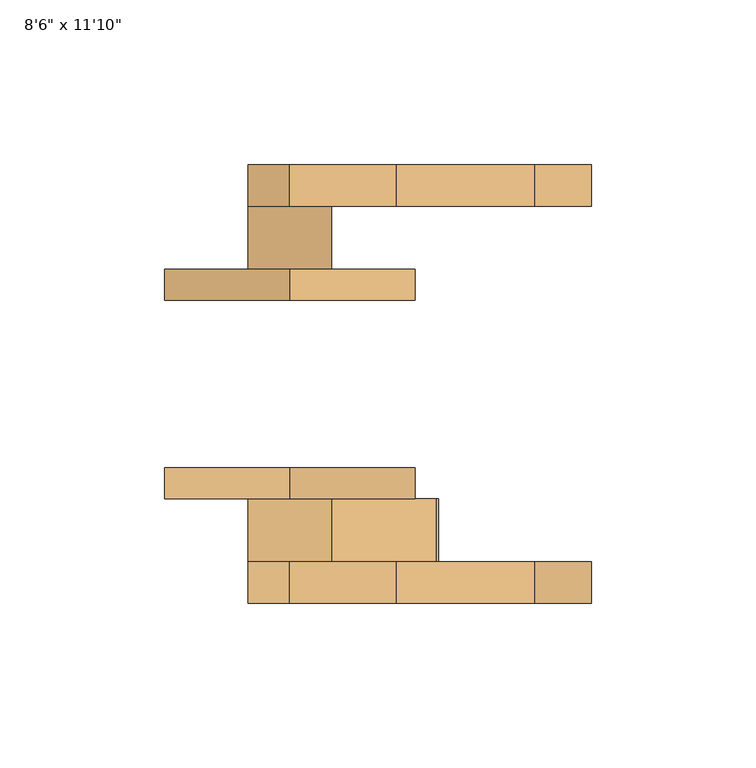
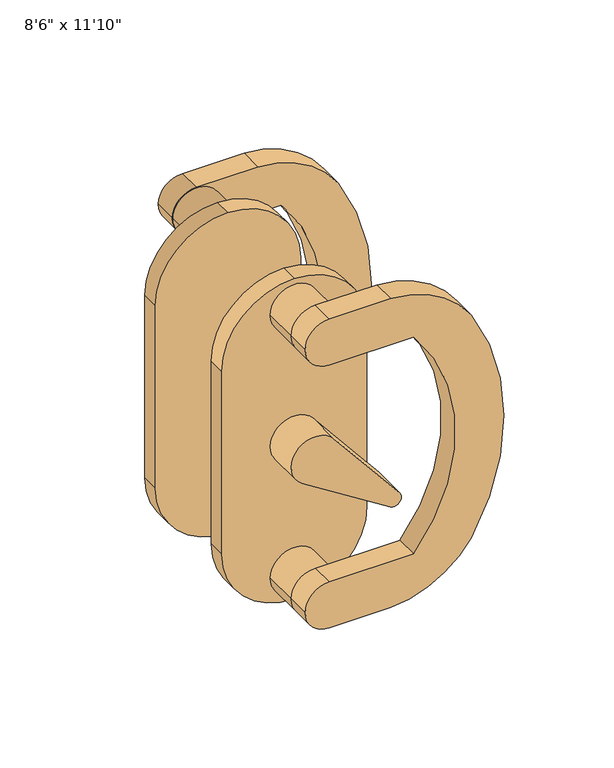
"""IFC4 building model written with IfcOpenShell, lengths in millimetres: door geometry."""

from ifc_helpers import new_model, si_unit, point, frame, frame_2d, origin, place, context, project, spatial, polyline, circle_curve, trimmed, segment, composite_curve, outline, extrude, source, transform, mapped, element, save
from ifc_brep_helpers import plane_surface, cylinder_surface, revolved_surface, advanced_brep


def door_82c8d47d(model_context):
    return source(origin(), model_context, "Body", "SolidModel", [
        extrude(outline(composite_curve([segment(trimmed(circle_curve(frame_2d((1089.025, -2781.3)), 12.7), [point((1101.725, -2781.3))], [point((1089.025, -2794.0))], False, "CARTESIAN"), True, "CONTINUOUS"), segment(trimmed(circle_curve(frame_2d((1089.025, -2781.3)), 12.7), [point((1089.025, -2794.0))], [point((1076.325, -2781.3))], False, "CARTESIAN"), True, "CONTINUOUS"), segment(polyline([(1076.325, -2781.3), (1076.325, -2736.85)]), True, "CONTINUOUS"), segment(trimmed(circle_curve(frame_2d((1016.0, -2809.0856209)), 94.1121169), [point((1076.325, -2736.85))], [point((955.675, -2736.85))], True, "CARTESIAN"), True, "CONTINUOUS"), segment(polyline([(955.675, -2736.85), (955.675, -2781.3)]), True, "CONTINUOUS"), segment(trimmed(circle_curve(frame_2d((942.975, -2781.3)), 12.7), [point((955.675, -2781.3))], [point((942.975, -2794.0))], False, "CARTESIAN"), True, "CONTINUOUS"), segment(trimmed(circle_curve(frame_2d((942.975, -2781.3)), 12.7), [point((942.975, -2794.0))], [point((930.275, -2781.3))], False, "CARTESIAN"), True, "CONTINUOUS"), segment(polyline([(930.275, -2781.3), (930.275, -2749.0483238)]), True, "CONTINUOUS"), segment(trimmed(circle_curve(frame_2d((983.5492088, -2751.3023503)), 53.3218713), [point((930.275, -2749.0483238))], [point((954.0589602, -2706.8777265))], False, "CARTESIAN"), True, "CONTINUOUS"), segment(trimmed(circle_curve(frame_2d((1016.0, -2809.0856209)), 119.5121169), [point((954.0589602, -2706.8777265))], [point((1077.9410398, -2706.8777265))], False, "CARTESIAN"), True, "CONTINUOUS"), segment(trimmed(circle_curve(frame_2d((1048.4507912, -2751.3023503)), 53.3218713), [point((1077.9410398, -2706.8777265))], [point((1101.725, -2749.0483238))], False, "CARTESIAN"), True, "CONTINUOUS"), segment(polyline([(1101.725, -2749.0483238), (1101.725, -2781.3)]), True, "CONTINUOUS")], self_intersect=False)), frame((0.0, 28.575, 0.0), z_axis=(0.0, 1.0, 0.0), x_axis=(0.0, 0.0, 1.0)), (0.0, 0.0, 1.0), 12.7),
        extrude(outline(composite_curve([segment(trimmed(circle_curve(frame_2d((942.975, -2781.3)), 12.7), [point((942.975, -2768.6))], [point((942.975, -2794.0))], False, "CARTESIAN"), True, "CONTINUOUS"), segment(trimmed(circle_curve(frame_2d((942.975, -2781.3)), 12.7), [point((942.975, -2794.0))], [point((942.975, -2768.6))], False, "CARTESIAN"), True, "CONTINUOUS")], self_intersect=False)), frame((0.0, 9.525, 0.0), z_axis=(0.0, 1.0, 0.0), x_axis=(0.0, 0.0, 1.0)), (0.0, 0.0, 1.0), 19.05),
        extrude(outline(composite_curve([segment(trimmed(circle_curve(frame_2d((1089.025, -2781.3)), 12.7), [point((1089.025, -2768.6))], [point((1089.025, -2794.0))], False, "CARTESIAN"), True, "CONTINUOUS"), segment(trimmed(circle_curve(frame_2d((1089.025, -2781.3)), 12.7), [point((1089.025, -2794.0))], [point((1089.025, -2768.6))], False, "CARTESIAN"), True, "CONTINUOUS")], self_intersect=False)), frame((0.0, 9.525, 0.0), z_axis=(0.0, 1.0, 0.0), x_axis=(0.0, 0.0, 1.0)), (0.0, 0.0, 1.0), 19.05),
        extrude(outline(composite_curve([segment(polyline([(1066.8, -2819.4), (965.2, -2819.4)]), True, "CONTINUOUS"), segment(trimmed(circle_curve(frame_2d((965.2, -2781.3)), 38.1), [point((965.2, -2819.4))], [point((927.1, -2781.3))], False, "CARTESIAN"), True, "CONTINUOUS"), segment(trimmed(circle_curve(frame_2d((965.2, -2781.3)), 38.1), [point((927.1, -2781.3))], [point((965.2, -2743.2))], False, "CARTESIAN"), True, "CONTINUOUS"), segment(polyline([(965.2, -2743.2), (1066.8, -2743.2)]), True, "CONTINUOUS"), segment(trimmed(circle_curve(frame_2d((1066.8, -2781.3)), 38.1), [point((1066.8, -2743.2))], [point((1104.9, -2781.3))], False, "CARTESIAN"), True, "CONTINUOUS"), segment(trimmed(circle_curve(frame_2d((1066.8, -2781.3)), 38.1), [point((1104.9, -2781.3))], [point((1066.8, -2819.4))], False, "CARTESIAN"), True, "CONTINUOUS")], self_intersect=False)), frame((0.0, 0.0, 0.0), z_axis=(0.0, 1.0, 0.0), x_axis=(0.0, 0.0, 1.0)), (0.0, 0.0, 1.0), 9.525),
        advanced_brep(
        [(-2781.3, -92.075, 1101.725), (-2794.0, -92.075, 1089.025), (-2781.3, -92.075, 1076.325), (-2736.85, -92.075, 1076.325), (-2736.85, -92.075, 955.675), (-2781.3, -92.075, 955.675), (-2794.0, -92.075, 942.975), (-2781.3, -92.075, 930.275), (-2749.0483238, -92.075, 930.275), (-2706.8777265, -92.075, 954.0589602), (-2706.8777265, -92.075, 1077.9410398), (-2749.0483238, -92.075, 1101.725), (-2781.3, -79.375, 1076.325), (-2768.6, -79.375, 1089.025), (-2781.3, -79.375, 1101.725), (-2749.0483238, -79.375, 1101.725), (-2706.8777265, -79.375, 1077.9410398), (-2706.8777265, -79.375, 954.0589602), (-2749.0483238, -79.375, 930.275), (-2781.3, -79.375, 930.275), (-2768.6, -79.375, 942.975), (-2781.3, -79.375, 955.675), (-2736.85, -79.375, 955.675), (-2736.85, -79.375, 1076.325), (-2794.0, -79.375, 942.975), (-2794.0, -79.375, 1089.025), (-2768.6, -60.325, 942.975), (-2794.0, -60.325, 942.975), (-2768.6, -60.325, 1089.025), (-2794.0, -60.325, 1089.025)],
        [
            (0, 1, circle_curve(frame((-2781.3, -92.075, 1089.025), z_axis=(0.0, -1.0, 0.0), x_axis=(-1.0, 0.0, 0.0)), 12.7)),
            (1, 2, circle_curve(frame((-2781.3, -92.075, 1089.025), z_axis=(0.0, -1.0, 0.0), x_axis=(-1.0, 0.0, 0.0)), 12.7)),
            (2, 3),
            (3, 4, circle_curve(frame((-2809.0856209, -92.075, 1016.0), z_axis=(0.0, 1.0, 0.0), x_axis=(-1.0, 0.0, 0.0)), 94.1121169)),
            (4, 5),
            (5, 6, circle_curve(frame((-2781.3, -92.075, 942.975), z_axis=(0.0, -1.0, 0.0), x_axis=(-1.0, 0.0, 0.0)), 12.7)),
            (6, 7, circle_curve(frame((-2781.3, -92.075, 942.975), z_axis=(0.0, -1.0, 0.0), x_axis=(-1.0, 0.0, 0.0)), 12.7)),
            (7, 8),
            (8, 9, circle_curve(frame((-2751.3023503, -92.075, 983.5492088), z_axis=(0.0, -1.0, 0.0), x_axis=(-1.0, 0.0, 0.0)), 53.3218713)),
            (9, 10, circle_curve(frame((-2809.0856209, -92.075, 1016.0), z_axis=(0.0, -1.0, 0.0), x_axis=(-1.0, 0.0, 0.0)), 119.5121169)),
            (10, 11, circle_curve(frame((-2751.3023503, -92.075, 1048.4507912), z_axis=(0.0, -1.0, 0.0), x_axis=(-1.0, 0.0, 0.0)), 53.3218713)),
            (11, 0),
            (12, 13, circle_curve(frame((-2781.3, -79.375, 1089.025), z_axis=(0.0, -1.0, 0.0), x_axis=(-1.0, 0.0, 0.0)), 12.7)),
            (13, 14, circle_curve(frame((-2781.3, -79.375, 1089.025), z_axis=(0.0, -1.0, 0.0), x_axis=(-1.0, 0.0, 0.0)), 12.7)),
            (14, 15),
            (15, 16, circle_curve(frame((-2751.3023503, -79.375, 1048.4507912), z_axis=(0.0, 1.0, 0.0), x_axis=(-1.0, 0.0, 0.0)), 53.3218713)),
            (16, 17, circle_curve(frame((-2809.0856209, -79.375, 1016.0), z_axis=(0.0, 1.0, 0.0), x_axis=(-1.0, 0.0, 0.0)), 119.5121169)),
            (17, 18, circle_curve(frame((-2751.3023503, -79.375, 983.5492088), z_axis=(0.0, 1.0, 0.0), x_axis=(-1.0, 0.0, 0.0)), 53.3218713)),
            (18, 19),
            (19, 20, circle_curve(frame((-2781.3, -79.375, 942.975), z_axis=(0.0, -1.0, 0.0), x_axis=(-1.0, 0.0, 0.0)), 12.7)),
            (20, 21, circle_curve(frame((-2781.3, -79.375, 942.975), z_axis=(0.0, -1.0, 0.0), x_axis=(-1.0, 0.0, 0.0)), 12.7)),
            (21, 22),
            (22, 23, circle_curve(frame((-2809.0856209, -79.375, 1016.0), z_axis=(0.0, -1.0, 0.0), x_axis=(-1.0, 0.0, 0.0)), 94.1121169)),
            (23, 12),
            (11, 15),
            (14, 0),
            (10, 16),
            (9, 17),
            (8, 18),
            (7, 19),
            (6, 24),
            (24, 19, circle_curve(frame((-2781.3, -79.375, 942.975), z_axis=(0.0, -1.0, 0.0), x_axis=(-1.0, 0.0, 0.0)), 12.7)),
            (5, 21),
            (21, 24, circle_curve(frame((-2781.3, -79.375, 942.975), z_axis=(0.0, -1.0, 0.0), x_axis=(-1.0, 0.0, 0.0)), 12.7)),
            (4, 22),
            (3, 23),
            (2, 12),
            (1, 25),
            (25, 12, circle_curve(frame((-2781.3, -79.375, 1089.025), z_axis=(0.0, -1.0, 0.0), x_axis=(-1.0, 0.0, 0.0)), 12.7)),
            (14, 25, circle_curve(frame((-2781.3, -79.375, 1089.025), z_axis=(0.0, -1.0, 0.0), x_axis=(-1.0, 0.0, 0.0)), 12.7)),
            (26, 27, circle_curve(frame((-2781.3, -60.325, 942.975), z_axis=(0.0, 1.0, 0.0), x_axis=(-1.0, 0.0, 0.0)), 12.7)),
            (27, 26, circle_curve(frame((-2781.3, -60.325, 942.975), z_axis=(0.0, 1.0, 0.0), x_axis=(-1.0, 0.0, 0.0)), 12.7)),
            (28, 29, circle_curve(frame((-2781.3, -60.325, 1089.025), z_axis=(0.0, 1.0, 0.0), x_axis=(-1.0, 0.0, 0.0)), 12.7)),
            (29, 28, circle_curve(frame((-2781.3, -60.325, 1089.025), z_axis=(0.0, 1.0, 0.0), x_axis=(-1.0, 0.0, 0.0)), 12.7)),
            (26, 20),
            (24, 27),
            (28, 13),
            (25, 29),
        ],
        [
            plane_surface(frame((-2781.3, -92.075, 1101.725), z_axis=(0.0, -1.0, 0.0), x_axis=(1.0, 0.0, 0.0))),
            plane_surface(frame((-2781.3, -79.375, 1101.725), z_axis=(0.0, 1.0, 0.0), x_axis=(-1.0, 0.0, 0.0))),
            plane_surface(frame((-2781.3, -92.075, 1101.725), z_axis=(0.0, 0.0, 1.0), x_axis=(0.0, 1.0, 0.0))),
            cylinder_surface(frame((-2751.3023503, -79.375, 1048.4507912), z_axis=(0.0, -1.0, 0.0), x_axis=(-1.0, 0.0, 0.0)), 53.3218713),
            cylinder_surface(frame((-2809.0856209, -79.375, 1016.0), z_axis=(0.0, -1.0, 0.0), x_axis=(-1.0, 0.0, 0.0)), 119.5121169),
            cylinder_surface(frame((-2751.3023503, -79.375, 983.5492088), z_axis=(0.0, -1.0, 0.0), x_axis=(-1.0, 0.0, 0.0)), 53.3218713),
            plane_surface(frame((-2749.0483238, -92.075, 930.275), z_axis=(0.0, 0.0, -1.0), x_axis=(0.0, 1.0, 0.0))),
            cylinder_surface(frame((-2781.3, -79.375, 942.975), z_axis=(0.0, -1.0, 0.0), x_axis=(-1.0, 0.0, 0.0)), 12.7),
            plane_surface(frame((-2781.3, -92.075, 955.675), z_axis=(0.0, 0.0, 1.0), x_axis=(0.0, 1.0, 0.0))),
            revolved_surface(polyline([(-2903.1977377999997, -79.375, 1016.0), (-2903.1977377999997, -92.075, 1016.0)]), (-2809.0856209, -79.375, 1016.0), (0.0, 1.0, 0.0)),
            plane_surface(frame((-2736.85, -92.075, 1076.325), z_axis=(0.0, 0.0, -1.0), x_axis=(0.0, 1.0, 0.0))),
            cylinder_surface(frame((-2781.3, -79.375, 1089.025), z_axis=(0.0, -1.0, 0.0), x_axis=(-1.0, 0.0, 0.0)), 12.7),
            plane_surface(frame((-2794.0, -60.325, 942.975), z_axis=(0.0, 1.0, 0.0), x_axis=(0.0, 0.0, -1.0))),
            cylinder_surface(frame((-2781.3, -60.325, 942.975), z_axis=(0.0, -1.0, 0.0), x_axis=(-1.0, 0.0, 0.0)), 12.7),
            cylinder_surface(frame((-2781.3, 0.0, 1089.025), z_axis=(0.0, -1.0, 0.0), x_axis=(-1.0, 0.0, 0.0)), 12.7),
        ],
        [
            (0, [[1, 2, 3, 4, 5, 6, 7, 8, 9, 10, 11, 12]]),
            (1, [[13, 14, 15, 16, 17, 18, 19, 20, 21, 22, 23, 24]]),
            (2, [[25, -15, 26, -12]]),
            (3, [[27, -16, -25, -11]]),
            (4, [[28, -17, -27, -10]]),
            (5, [[29, -18, -28, -9]]),
            (6, [[30, -19, -29, -8]]),
            (7, [[31, 32, -30, -7]]),
            (7, [[33, 34, -31, -6]]),
            (8, [[35, -22, -33, -5]]),
            (9, [[36, -23, -35, -4]]),
            (10, [[37, -24, -36, -3]]),
            (11, [[38, 39, -37, -2]]),
            (11, [[-26, 40, -38, -1]]),
            (12, [[41, 42]]),
            (12, [[43, 44]]),
            (13, [[45, -20, -32, 46, -41]]),
            (13, [[-46, -34, -21, -45, -42]]),
            (14, [[47, -13, -39, 48, -43]]),
            (14, [[-48, -40, -14, -47, -44]]),
        ],
    ),
        advanced_brep(
        [(-2771.4784379, -79.375, 1024.0515165), (-2788.1151355, -79.375, 1005.2834741), (-2742.076739, -79.375, 976.0055242), (-2736.8404075, -79.375, 981.7986603), (-2771.4784379, -60.325, 1024.0515165), (-2736.8404075, -60.325, 981.7986603), (-2742.076739, -60.325, 976.0055242), (-2788.1151355, -60.325, 1005.2834741)],
        [
            (0, 1, circle_curve(frame((-2781.3, -79.375, 1016.0), z_axis=(0.0, -1.0, 0.0), x_axis=(-1.0, 0.0, 0.0)), 12.7)),
            (1, 2),
            (2, 3, circle_curve(frame((-2740.1471655, -79.375, 979.5245008), z_axis=(0.0, -1.0, 0.0), x_axis=(-1.0, 0.0, 0.0)), 4.0132842)),
            (3, 0),
            (4, 5),
            (5, 6, circle_curve(frame((-2740.1471655, -60.325, 979.5245008), z_axis=(0.0, 1.0, 0.0), x_axis=(-1.0, 0.0, 0.0)), 4.0132842)),
            (6, 7),
            (7, 4, circle_curve(frame((-2781.3, -60.325, 1016.0), z_axis=(0.0, 1.0, 0.0), x_axis=(-1.0, 0.0, 0.0)), 12.7)),
            (3, 5),
            (4, 0),
            (2, 6),
            (1, 7),
        ],
        [
            plane_surface(frame((-2794.0, -79.375, 942.975), z_axis=(0.0, -1.0, 0.0), x_axis=(0.0, 0.0, 1.0))),
            plane_surface(frame((-2794.0, -60.325, 942.975), z_axis=(0.0, 1.0, 0.0), x_axis=(0.0, 0.0, -1.0))),
            plane_surface(frame((-2771.4784379, -79.375, 1024.0515165), z_axis=(0.7733513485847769, 0.0, 0.633977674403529), x_axis=(0.0, 1.0, 0.0))),
            cylinder_surface(frame((-2740.1471655, 0.0, 979.5245008), z_axis=(0.0, -1.0, 0.0), x_axis=(-1.0, 0.0, 0.0)), 4.0132842),
            plane_surface(frame((-2742.076739, -79.375, 976.0055242), z_axis=(-0.5366248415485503, 0.0, -0.8438209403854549), x_axis=(0.0, 1.0, 0.0))),
            cylinder_surface(frame((-2781.3, 0.0, 1016.0), z_axis=(0.0, -1.0, 0.0), x_axis=(-1.0, 0.0, 0.0)), 12.7),
        ],
        [
            (0, [[1, 2, 3, 4]]),
            (1, [[5, 6, 7, 8]]),
            (2, [[9, -5, 10, -4]]),
            (3, [[11, -6, -9, -3]]),
            (4, [[12, -7, -11, -2]]),
            (5, [[-10, -8, -12, -1]]),
        ],
    ),
        extrude(outline(composite_curve([segment(polyline([(1066.8, -2819.4), (965.2, -2819.4)]), True, "CONTINUOUS"), segment(trimmed(circle_curve(frame_2d((965.2, -2781.3)), 38.1), [point((965.2, -2819.4))], [point((927.1, -2781.3))], False, "CARTESIAN"), True, "CONTINUOUS"), segment(trimmed(circle_curve(frame_2d((965.2, -2781.3)), 38.1), [point((927.1, -2781.3))], [point((965.2, -2743.2))], False, "CARTESIAN"), True, "CONTINUOUS"), segment(polyline([(965.2, -2743.2), (1066.8, -2743.2)]), True, "CONTINUOUS"), segment(trimmed(circle_curve(frame_2d((1066.8, -2781.3)), 38.1), [point((1066.8, -2743.2))], [point((1104.9, -2781.3))], False, "CARTESIAN"), True, "CONTINUOUS"), segment(trimmed(circle_curve(frame_2d((1066.8, -2781.3)), 38.1), [point((1104.9, -2781.3))], [point((1066.8, -2819.4))], False, "CARTESIAN"), True, "CONTINUOUS")], self_intersect=False)), frame((0.0, -60.325, 0.0), z_axis=(0.0, 1.0, 0.0), x_axis=(0.0, 0.0, 1.0)), (0.0, 0.0, 1.0), 9.525),
    ])


if __name__ == "__main__":
    model = new_model("IFC4")
    model_context = context("Model", 3, world=origin())
    ifc_project = project(units=[si_unit("LENGTHUNIT", "METRE", prefix="MILLI")], contexts=[model_context])
    site = spatial("IfcSite", under=ifc_project)
    building = spatial("IfcBuilding", under=site)
    placement = place(None, origin())
    door_shape = door_82c8d47d(model_context)
    element("IfcDoor", 1, ObjectType="Planitar - Sliding Door_Swapper : 8'6\" x 11'10\"", at=placement, inside=building, context=model_context, shape_type="MappedRepresentation", body=[
        mapped(door_shape, transform((0.0, 0.0, 0.0), x_axis=(1.0, 0.0, 0.0), y_axis=(0.0, 1.0, 0.0), z_axis=(0.0, 0.0, 1.0))),
    ])
    save(model, "model.ifc")
